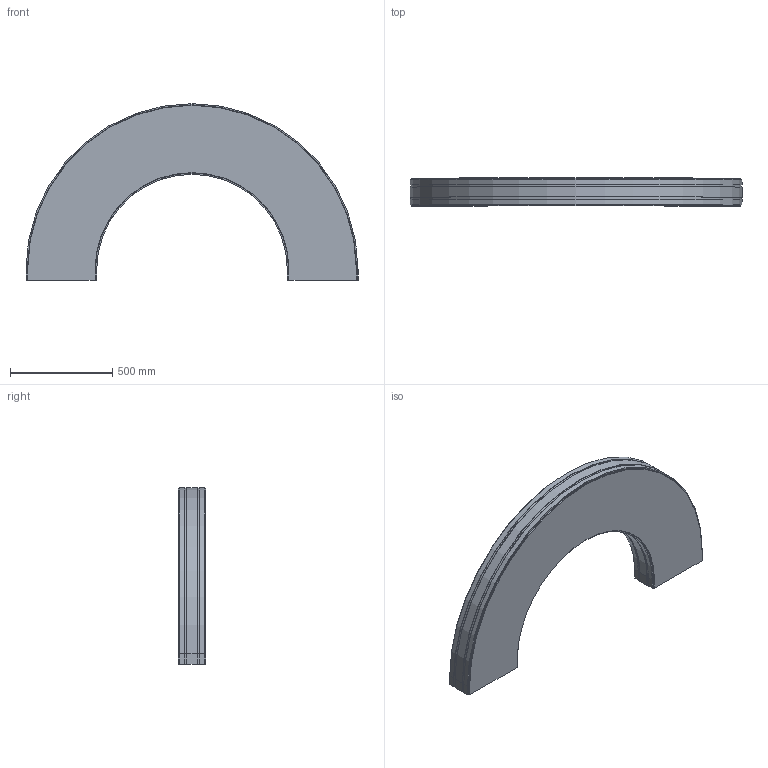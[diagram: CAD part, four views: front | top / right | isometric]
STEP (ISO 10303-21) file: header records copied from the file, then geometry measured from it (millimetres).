
FILE_DESCRIPTION (( 'STEP AP214' ), '1' );
FILE_NAME ('FS-MTC2-150-INOX horizontaalbocht.350 180°.STEP', '2017-02-08T12:40:31', ( '' ), ( '' ), 'SwSTEP 2.0', 'SolidWorks 2016', '' );
FILE_SCHEMA (( 'AUTOMOTIVE_DESIGN' ));
Length unit declared in the file: millimetre
Products named in the file (1): FS-MTC2-150-INOX horizontaalbocht.350 180°
Bounding box: 1626 x 136.5 x 865.5 mm (x, y, z)
Volume: 99276704.9 mm3; surface area: 2177736.2 mm2
Topology: 1 solids, 1 shells, 74 faces, 216 edges, 144 vertices
Faces by surface type: plane 56, cylinder 18
Entity records: 2470 total; most frequent: CARTESIAN_POINT 435, ORIENTED_EDGE 432, DIRECTION 402, EDGE_CURVE 216, LINE 180, VECTOR 180, VERTEX_POINT 144, AXIS2_PLACEMENT_3D 111
